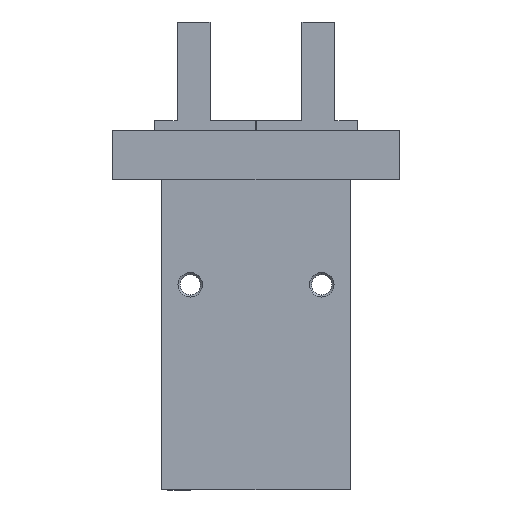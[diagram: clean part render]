
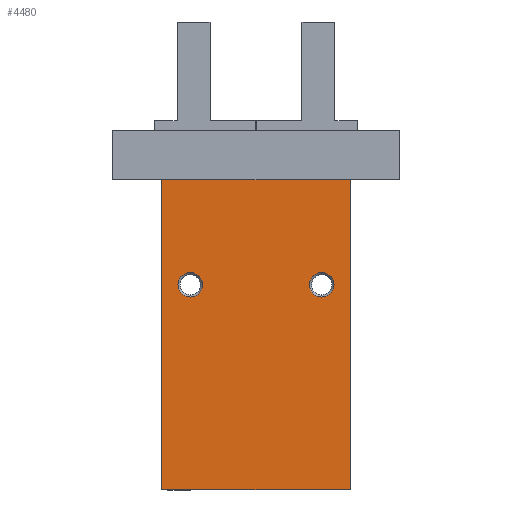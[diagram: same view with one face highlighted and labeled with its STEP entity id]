
A CAD part, front view. The second image highlights one B-rep face of the part: STEP entity #4480.
In plain terms, the highlighted planar face has unit normal (0, -1, 0).
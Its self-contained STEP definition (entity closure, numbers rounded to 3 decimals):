
#73 = AXIS2_PLACEMENT_3D ( 'NONE', #2600, #3301, #1218 ) ;
#144 = CARTESIAN_POINT ( 'NONE',  ( 11.5, -8.2, 37.8 ) ) ;
#204 = EDGE_LOOP ( 'NONE', ( #1487, #537, #2786, #1723 ) ) ;
#324 = CARTESIAN_POINT ( 'NONE',  ( -11.5, -8.2, 37.8 ) ) ;
#338 = LINE ( 'NONE', #2318, #2189 ) ;
#533 = DIRECTION ( 'NONE',  ( 1., 0., 0. ) ) ;
#537 = ORIENTED_EDGE ( 'NONE', *, *, #1015, .F. ) ;
#636 = DIRECTION ( 'NONE',  ( 0., -1., 0. ) ) ;
#684 = EDGE_CURVE ( 'NONE', #3655, #4110, #745, .T. ) ;
#745 = CIRCLE ( 'NONE', #3179, 1.5 ) ;
#891 = CARTESIAN_POINT ( 'NONE',  ( 0., -8.2, 0. ) ) ;
#939 = ORIENTED_EDGE ( 'NONE', *, *, #684, .F. ) ;
#1015 = EDGE_CURVE ( 'NONE', #1994, #2420, #1401, .T. ) ;
#1029 = VERTEX_POINT ( 'NONE', #1915 ) ;
#1063 = CARTESIAN_POINT ( 'NONE',  ( -11.5, -8.2, 0. ) ) ;
#1092 = EDGE_CURVE ( 'NONE', #1029, #2364, #1174, .T. ) ;
#1124 = DIRECTION ( 'NONE',  ( 0., -1., 0. ) ) ;
#1141 = AXIS2_PLACEMENT_3D ( 'NONE', #2668, #2701, #2722 ) ;
#1174 = CIRCLE ( 'NONE', #1141, 1.5 ) ;
#1218 = DIRECTION ( 'NONE',  ( 0., 0., 1. ) ) ;
#1341 = DIRECTION ( 'NONE',  ( 0., 0., -1. ) ) ;
#1401 = LINE ( 'NONE', #1447, #4076 ) ;
#1436 = VERTEX_POINT ( 'NONE', #1786 ) ;
#1447 = CARTESIAN_POINT ( 'NONE',  ( -11.5, -8.2, 37.8 ) ) ;
#1487 = ORIENTED_EDGE ( 'NONE', *, *, #3961, .T. ) ;
#1525 = CIRCLE ( 'NONE', #3819, 1.5 ) ;
#1609 = ORIENTED_EDGE ( 'NONE', *, *, #2571, .F. ) ;
#1684 = DIRECTION ( 'NONE',  ( 1., 0., 0. ) ) ;
#1723 = ORIENTED_EDGE ( 'NONE', *, *, #3814, .T. ) ;
#1724 = ORIENTED_EDGE ( 'NONE', *, *, #1092, .F. ) ;
#1754 = FACE_BOUND ( 'NONE', #2077, .T. ) ;
#1786 = CARTESIAN_POINT ( 'NONE',  ( 11.5, -8.2, 0. ) ) ;
#1863 = AXIS2_PLACEMENT_3D ( 'NONE', #3075, #636, #1341 ) ;
#1915 = CARTESIAN_POINT ( 'NONE',  ( -8., -8.2, 26.5 ) ) ;
#1921 = LINE ( 'NONE', #891, #2736 ) ;
#1964 = FACE_BOUND ( 'NONE', #3662, .T. ) ;
#1994 = VERTEX_POINT ( 'NONE', #2532 ) ;
#2063 = CARTESIAN_POINT ( 'NONE',  ( 8., -8.2, 23.5 ) ) ;
#2077 = EDGE_LOOP ( 'NONE', ( #1609, #939 ) ) ;
#2161 = CARTESIAN_POINT ( 'NONE',  ( 8., -8.2, 25. ) ) ;
#2189 = VECTOR ( 'NONE', #4062, 1000. ) ;
#2318 = CARTESIAN_POINT ( 'NONE',  ( 11.5, -8.2, 37.8 ) ) ;
#2364 = VERTEX_POINT ( 'NONE', #4446 ) ;
#2416 = DIRECTION ( 'NONE',  ( 0., 0., 1. ) ) ;
#2420 = VERTEX_POINT ( 'NONE', #144 ) ;
#2532 = CARTESIAN_POINT ( 'NONE',  ( -11.5, -8.2, 37.8 ) ) ;
#2571 = EDGE_CURVE ( 'NONE', #4110, #3655, #1525, .T. ) ;
#2600 = CARTESIAN_POINT ( 'NONE',  ( -11.5, -8.2, 37.8 ) ) ;
#2656 = EDGE_CURVE ( 'NONE', #2364, #1029, #3866, .T. ) ;
#2668 = CARTESIAN_POINT ( 'NONE',  ( -8., -8.2, 25. ) ) ;
#2701 = DIRECTION ( 'NONE',  ( 0., -1., 0. ) ) ;
#2722 = DIRECTION ( 'NONE',  ( 0., 0., -1. ) ) ;
#2736 = VECTOR ( 'NONE', #533, 1000. ) ;
#2786 = ORIENTED_EDGE ( 'NONE', *, *, #4116, .F. ) ;
#2898 = CARTESIAN_POINT ( 'NONE',  ( 8., -8.2, 26.5 ) ) ;
#3075 = CARTESIAN_POINT ( 'NONE',  ( -8., -8.2, 25. ) ) ;
#3162 = VECTOR ( 'NONE', #2416, 1000. ) ;
#3179 = AXIS2_PLACEMENT_3D ( 'NONE', #4001, #4126, #4143 ) ;
#3301 = DIRECTION ( 'NONE',  ( 0., 1., 0. ) ) ;
#3456 = ORIENTED_EDGE ( 'NONE', *, *, #2656, .F. ) ;
#3541 = DIRECTION ( 'NONE',  ( 0., 0., -1. ) ) ;
#3655 = VERTEX_POINT ( 'NONE', #2898 ) ;
#3662 = EDGE_LOOP ( 'NONE', ( #3456, #1724 ) ) ;
#3700 = FACE_OUTER_BOUND ( 'NONE', #204, .T. ) ;
#3814 = EDGE_CURVE ( 'NONE', #4204, #1436, #1921, .T. ) ;
#3819 = AXIS2_PLACEMENT_3D ( 'NONE', #2161, #1124, #3541 ) ;
#3866 = CIRCLE ( 'NONE', #1863, 1.5 ) ;
#3961 = EDGE_CURVE ( 'NONE', #1436, #2420, #338, .T. ) ;
#4001 = CARTESIAN_POINT ( 'NONE',  ( 8., -8.2, 25. ) ) ;
#4062 = DIRECTION ( 'NONE',  ( 0., 0., 1. ) ) ;
#4076 = VECTOR ( 'NONE', #1684, 1000. ) ;
#4110 = VERTEX_POINT ( 'NONE', #2063 ) ;
#4116 = EDGE_CURVE ( 'NONE', #4204, #1994, #4210, .T. ) ;
#4126 = DIRECTION ( 'NONE',  ( 0., -1., 0. ) ) ;
#4143 = DIRECTION ( 'NONE',  ( 0., 0., -1. ) ) ;
#4204 = VERTEX_POINT ( 'NONE', #1063 ) ;
#4210 = LINE ( 'NONE', #324, #3162 ) ;
#4348 = PLANE ( 'NONE',  #73 ) ;
#4446 = CARTESIAN_POINT ( 'NONE',  ( -8., -8.2, 23.5 ) ) ;
#4480 = ADVANCED_FACE ( 'NONE', ( #3700, #1754, #1964 ), #4348, .F. ) ;
